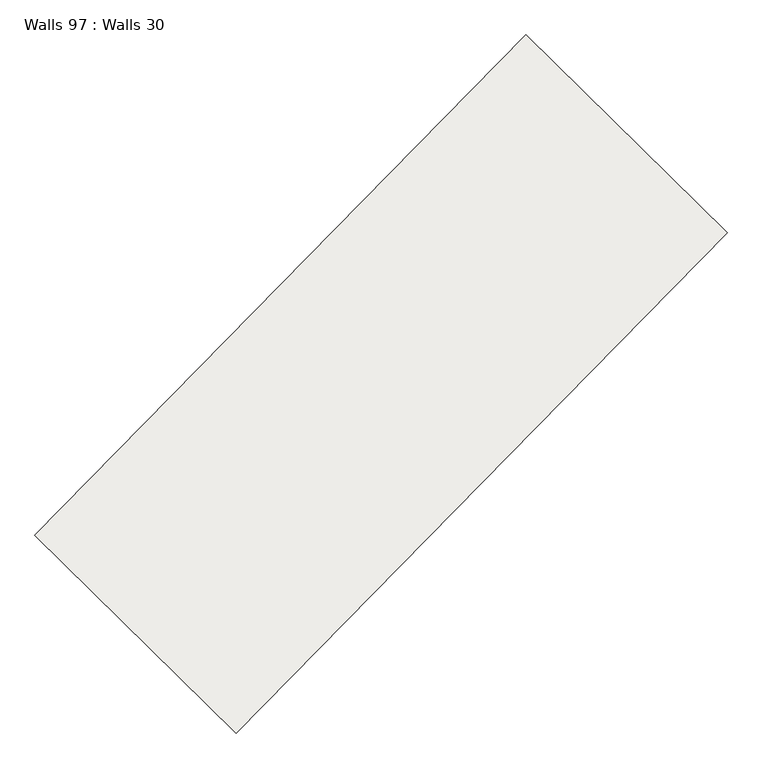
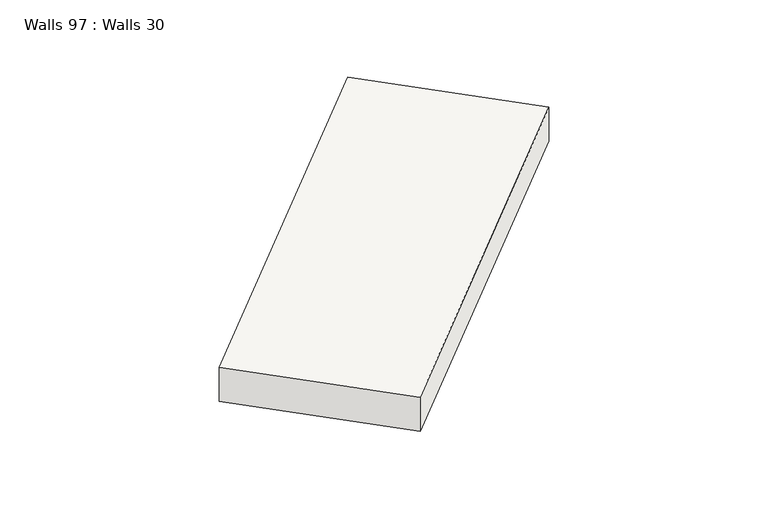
"""IFC4 building model written with IfcOpenShell, lengths in millimetres: slab geometry, Walls 97 : Walls 30."""

from ifc_helpers import new_model, si_unit, frame, origin, place, context, project, spatial, polyline, outline, extrude, source, transform, mapped, element, save


def walls_97_walls_30_513c0cae(model_context):
    return source(origin(), model_context, "Body", "SweptSolid", [
        extrude(outline(polyline([(-350.0, 0.0), (350.0, 0.0), (270.0, -8700.0000004), (-430.0, -8700.0000004), (-350.0, 0.0)])), frame((-201111.9764642, -364136.6256001, 635520.0), z_axis=(-0.7136987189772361, 0.7004528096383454, 0.0), x_axis=(0.0, 0.0, 1.0)), (0.0, 0.0, 1.0), 3500.0),
    ])


if __name__ == "__main__":
    model = new_model("IFC4")
    model_context = context("Model", 3, world=origin())
    ifc_project = project(units=[si_unit("LENGTHUNIT", "METRE", prefix="MILLI")], contexts=[model_context])
    site = spatial("IfcSite", under=ifc_project)
    building = spatial("IfcBuilding", under=site)
    placement = place(None, origin())
    walls_97_walls_30_shape = walls_97_walls_30_513c0cae(model_context)
    element("IfcSlab", 1, ObjectType="Walls 97 : Walls 30", at=placement, inside=building, context=model_context, shape_type="MappedRepresentation", body=[
        mapped(walls_97_walls_30_shape, transform((0.0, 0.0, 0.0), x_axis=(1.0, 0.0, 0.0), y_axis=(0.0, 1.0, 0.0), z_axis=(0.0, 0.0, 1.0))),
    ])
    save(model, "model.ifc")
